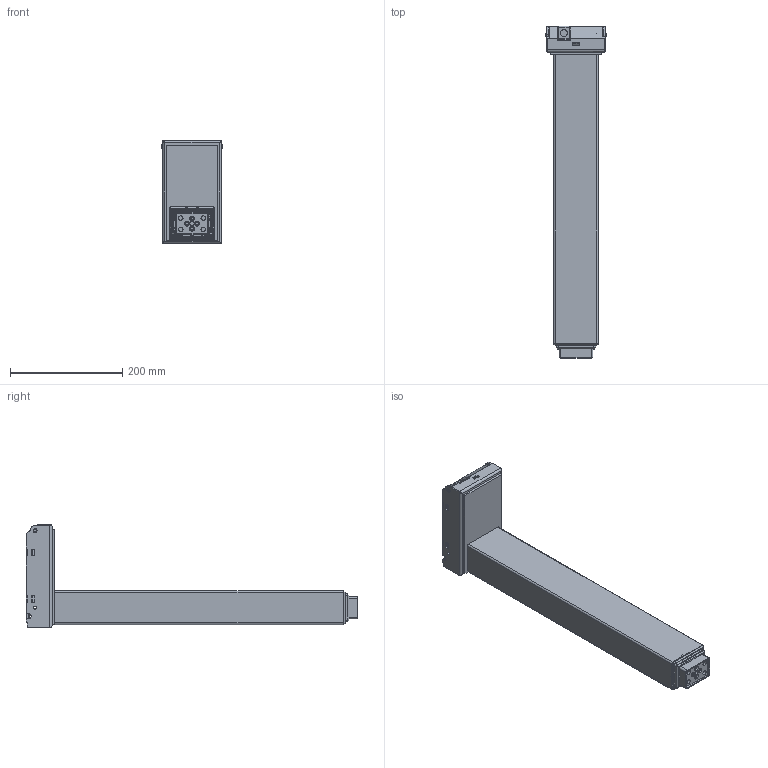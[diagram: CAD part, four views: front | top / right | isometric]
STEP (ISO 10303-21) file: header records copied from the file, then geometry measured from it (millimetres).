
FILE_DESCRIPTION (( 'STEP AP203' ), '1' );
FILE_NAME ('ST_TL12H.STEP', '2021-05-25T05:39:20', ( '' ), ( '' ), 'SwSTEP 2.0', 'SolidWorks 2015', '' );
FILE_SCHEMA (( 'CONFIG_CONTROL_DESIGN' ));
Length unit declared in the file: millimetre
Products named in the file (1): ST_TL12H
Bounding box: 107 x 591 x 183 mm (x, y, z)
Volume: 962718.4 mm3; surface area: 853880.1 mm2
Topology: 6 solids, 6 shells, 2645 faces, 6774 edges, 3990 vertices
Faces by surface type: cylinder 1059, plane 932, bspline 446, cone 208
Entity records: 91855 total; most frequent: CARTESIAN_POINT 30459, ORIENTED_EDGE 13368, DIRECTION 12162, EDGE_CURVE 6684, AXIS2_PLACEMENT_3D 4157, VERTEX_POINT 3990, VECTOR 3848, LINE 3848
